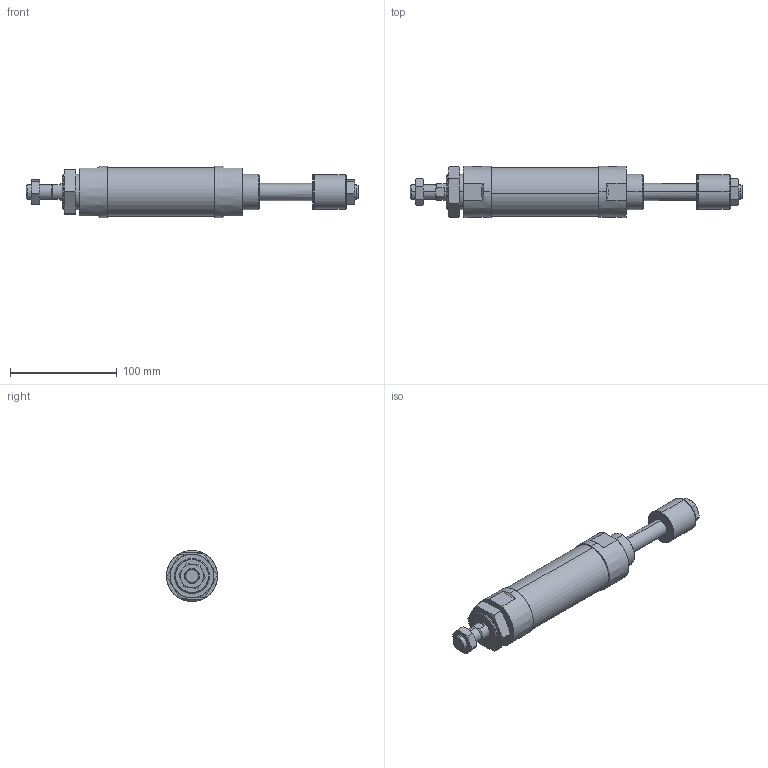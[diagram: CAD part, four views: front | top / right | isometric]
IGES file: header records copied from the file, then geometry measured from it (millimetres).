
Start section: SolidWorks IGES file using analytic representation for surfaces
Global section: file name: C:\Users\Toshiba\Desktop\JGA7-40-50-N.IGS; native system: SolidWorks 2014; preprocessor: SolidWorks 2014; author: Toshiba; date: 160420.095928; units: millimetre
Bounding box: 311.5 x 48 x 48 mm (x, y, z)
Surface area: 56229.9 mm2 (no closed solid volume)
Topology: 0 solids, 0 shells, 149 faces, 2932 edges, 2928 vertices
Faces by surface type: bspline 89, revolution 60
